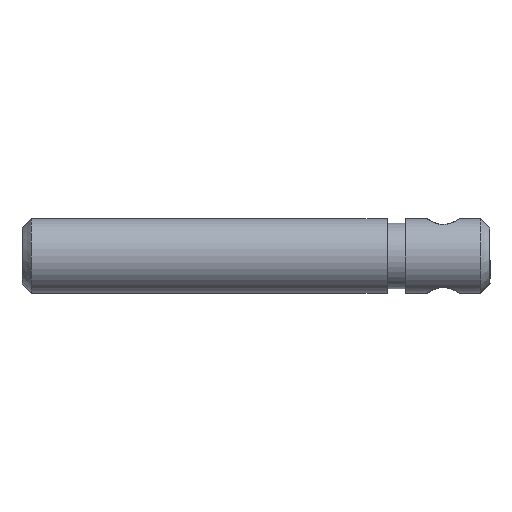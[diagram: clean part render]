
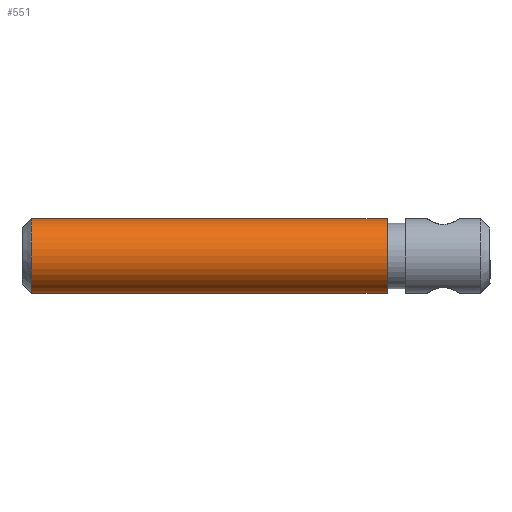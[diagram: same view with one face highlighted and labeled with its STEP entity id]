
A CAD part, left-side view. The second image highlights one B-rep face of the part: STEP entity #551.
In plain terms, the highlighted cylindrical face has radius 4 mm (diameter 8 mm), a partial arc.
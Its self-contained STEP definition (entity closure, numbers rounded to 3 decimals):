
#4 = CARTESIAN_POINT ( 'NONE',  ( 0., 6., 4. ) ) ;
#262 = ORIENTED_EDGE ( 'NONE', *, *, #4034, .T. ) ;
#288 = ORIENTED_EDGE ( 'NONE', *, *, #3053, .T. ) ;
#419 = AXIS2_PLACEMENT_3D ( 'NONE', #3244, #719, #3683 ) ;
#468 = CYLINDRICAL_SURFACE ( 'NONE', #2389, 4. ) ;
#540 = CARTESIAN_POINT ( 'NONE',  ( 0., 6., -4. ) ) ;
#551 = ADVANCED_FACE ( 'NONE', ( #3385 ), #468, .T. ) ;
#719 = DIRECTION ( 'NONE',  ( 0., 1., 0. ) ) ;
#1018 = VERTEX_POINT ( 'NONE', #5364 ) ;
#1078 = EDGE_CURVE ( 'NONE', #4715, #2914, #2192, .T. ) ;
#1522 = DIRECTION ( 'NONE',  ( 0., -1., 0. ) ) ;
#1774 = AXIS2_PLACEMENT_3D ( 'NONE', #4052, #1522, #4471 ) ;
#1799 = ORIENTED_EDGE ( 'NONE', *, *, #5361, .T. ) ;
#2065 = ORIENTED_EDGE ( 'NONE', *, *, #1078, .T. ) ;
#2192 = LINE ( 'NONE', #4105, #3577 ) ;
#2254 = CIRCLE ( 'NONE', #419, 4. ) ;
#2363 = CARTESIAN_POINT ( 'NONE',  ( 0., 10.734, -4. ) ) ;
#2389 = AXIS2_PLACEMENT_3D ( 'NONE', #4553, #4217, #4577 ) ;
#2911 = CIRCLE ( 'NONE', #1774, 4. ) ;
#2914 = VERTEX_POINT ( 'NONE', #4 ) ;
#3053 = EDGE_CURVE ( 'NONE', #3941, #1018, #3914, .T. ) ;
#3213 = DIRECTION ( 'NONE',  ( 0., 1., 0. ) ) ;
#3244 = CARTESIAN_POINT ( 'NONE',  ( 0., -32., 0. ) ) ;
#3385 = FACE_OUTER_BOUND ( 'NONE', #3642, .T. ) ;
#3577 = VECTOR ( 'NONE', #3213, 1000. ) ;
#3642 = EDGE_LOOP ( 'NONE', ( #2065, #1799, #288, #262 ) ) ;
#3683 = DIRECTION ( 'NONE',  ( 0., 0., 1. ) ) ;
#3857 = VECTOR ( 'NONE', #5344, 1000. ) ;
#3914 = LINE ( 'NONE', #2363, #3857 ) ;
#3941 = VERTEX_POINT ( 'NONE', #540 ) ;
#4001 = CARTESIAN_POINT ( 'NONE',  ( 0., -32., 4. ) ) ;
#4034 = EDGE_CURVE ( 'NONE', #1018, #4715, #2254, .T. ) ;
#4052 = CARTESIAN_POINT ( 'NONE',  ( 0., 6., 0. ) ) ;
#4105 = CARTESIAN_POINT ( 'NONE',  ( 0., 10.734, 4. ) ) ;
#4217 = DIRECTION ( 'NONE',  ( 0., 1., 0. ) ) ;
#4471 = DIRECTION ( 'NONE',  ( 0., 0., 1. ) ) ;
#4553 = CARTESIAN_POINT ( 'NONE',  ( 0., 10.734, 0. ) ) ;
#4577 = DIRECTION ( 'NONE',  ( 0., 0., 1. ) ) ;
#4715 = VERTEX_POINT ( 'NONE', #4001 ) ;
#5344 = DIRECTION ( 'NONE',  ( 0., -1., 0. ) ) ;
#5361 = EDGE_CURVE ( 'NONE', #2914, #3941, #2911, .T. ) ;
#5364 = CARTESIAN_POINT ( 'NONE',  ( 0., -32., -4. ) ) ;
